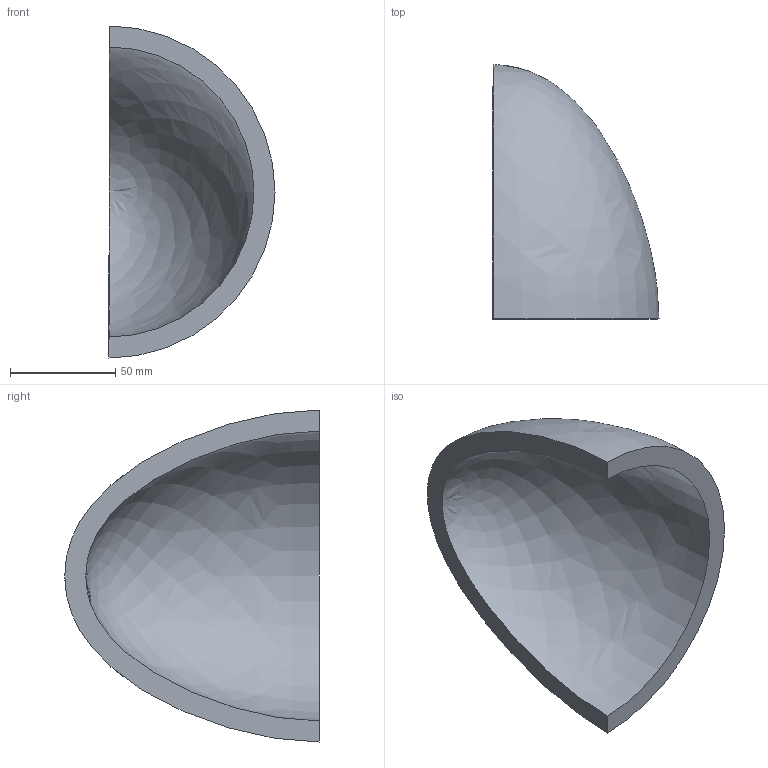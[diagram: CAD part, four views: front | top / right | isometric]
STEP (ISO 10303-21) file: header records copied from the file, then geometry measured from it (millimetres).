
FILE_DESCRIPTION(('CATIA V5 STEP Exchange'),'2;1');
FILE_NAME('C:\_Andres\UNIVERSIDAD\IQS\ASIGNATURAS\DAO\EXF\EXF-16172c\2inicio\Pares_Guanybens_Ej10_v21.stp','2017-03-05T22:31:13+00:00',('none'),('none'),'CATIA Version 5-6 Release 2014 SP1 HF18','CATIA V5 STEP AP203','none');
FILE_SCHEMA(('CONFIG_CONTROL_DESIGN'));
Length unit declared in the file: millimetre
Products named in the file (1): Pares_Guanybens_Ej10_v21
Bounding box: 79 x 121 x 158 mm (x, y, z)
Volume: 232975.3 mm3; surface area: 52015.5 mm2
Topology: 1 solids, 1 shells, 4 faces, 10 edges, 6 vertices
Faces by surface type: revolution 2, plane 2
Entity records: 248 total; most frequent: CARTESIAN_POINT 126, ORIENTED_EDGE 16, DIRECTION 10, EDGE_CURVE 8, B_SPLINE_CURVE_WITH_KNOTS 6, VERTEX_POINT 6, AXIS2_PLACEMENT_3D 5, ADVANCED_FACE 4
